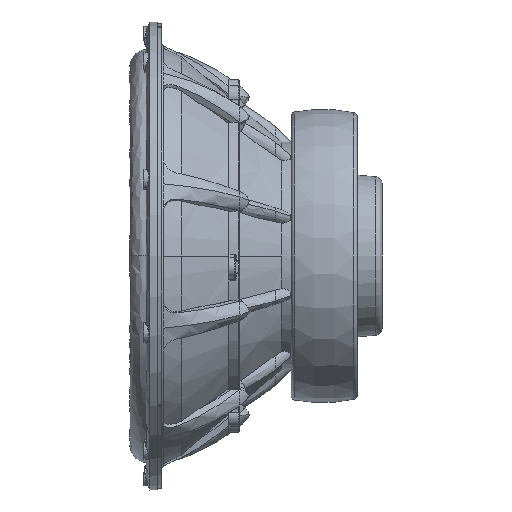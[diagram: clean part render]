
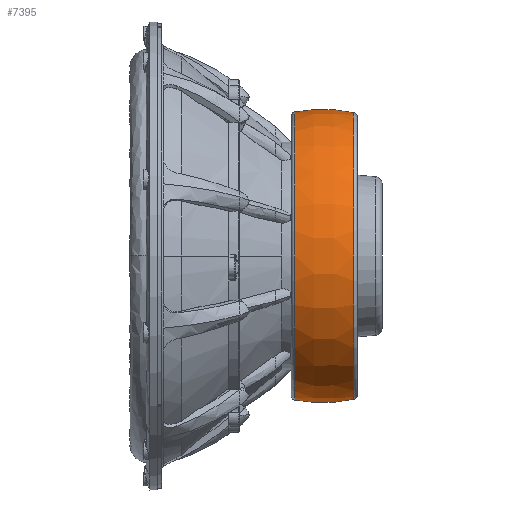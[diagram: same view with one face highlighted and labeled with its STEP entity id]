
A CAD part, left-side view. The second image highlights one B-rep face of the part: STEP entity #7395.
In plain terms, the highlighted toroidal (fillet/blend) face has major radius 0.248 mm and minor radius 100 mm.
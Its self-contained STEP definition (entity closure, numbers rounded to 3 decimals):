
#2444 = EDGE_CURVE ( 'NONE', #52921, #20210, #50799, .T. ) ;
#3229 = CARTESIAN_POINT ( 'NONE',  ( 0., -2.53, -98.425 ) ) ;
#7395 = ADVANCED_FACE ( 'NONE', ( #124953 ), #22555, .T. ) ;
#11148 = ORIENTED_EDGE ( 'NONE', *, *, #103281, .T. ) ;
#13295 = DIRECTION ( 'NONE',  ( 0., -1., 0. ) ) ;
#18969 = DIRECTION ( 'NONE',  ( 0., -1., 0. ) ) ;
#20210 = VERTEX_POINT ( 'NONE', #94953 ) ;
#22218 = EDGE_LOOP ( 'NONE', ( #11148, #78718, #50204, #69757 ) ) ;
#22241 = AXIS2_PLACEMENT_3D ( 'NONE', #75847, #85570, #114510 ) ;
#22555 = TOROIDAL_SURFACE ( 'NONE', #37220, 0.248, 100. ) ;
#28600 = VERTEX_POINT ( 'NONE', #3229 ) ;
#29918 = DIRECTION ( 'NONE',  ( 0., 0., 1. ) ) ;
#33990 = VERTEX_POINT ( 'NONE', #87728 ) ;
#37220 = AXIS2_PLACEMENT_3D ( 'NONE', #97215, #18969, #29918 ) ;
#40365 = DIRECTION ( 'NONE',  ( -1., 0., 0. ) ) ;
#41949 = DIRECTION ( 'NONE',  ( 0., -1., 0. ) ) ;
#50204 = ORIENTED_EDGE ( 'NONE', *, *, #2444, .F. ) ;
#50799 = CIRCLE ( 'NONE', #63254, 97.93 ) ;
#52826 = CIRCLE ( 'NONE', #77606, 98.425 ) ;
#52921 = VERTEX_POINT ( 'NONE', #86847 ) ;
#59413 = CIRCLE ( 'NONE', #22241, 100. ) ;
#60519 = DIRECTION ( 'NONE',  ( 0., 0., 1. ) ) ;
#62790 = CIRCLE ( 'NONE', #120424, 100. ) ;
#63254 = AXIS2_PLACEMENT_3D ( 'NONE', #112042, #13295, #80521 ) ;
#69757 = ORIENTED_EDGE ( 'NONE', *, *, #79575, .F. ) ;
#75847 = CARTESIAN_POINT ( 'NONE',  ( 0., -21.538, 0.248 ) ) ;
#77606 = AXIS2_PLACEMENT_3D ( 'NONE', #92427, #41949, #122714 ) ;
#78718 = ORIENTED_EDGE ( 'NONE', *, *, #87190, .T. ) ;
#79575 = EDGE_CURVE ( 'NONE', #33990, #52921, #59413, .T. ) ;
#80521 = DIRECTION ( 'NONE',  ( 0., 0., 1. ) ) ;
#85570 = DIRECTION ( 'NONE',  ( 1., 0., 0. ) ) ;
#86847 = CARTESIAN_POINT ( 'NONE',  ( 0., -42.942, 97.93 ) ) ;
#87190 = EDGE_CURVE ( 'NONE', #28600, #20210, #62790, .T. ) ;
#87728 = CARTESIAN_POINT ( 'NONE',  ( 0., -2.53, 98.425 ) ) ;
#89610 = CARTESIAN_POINT ( 'NONE',  ( 0., -21.538, -0.248 ) ) ;
#92427 = CARTESIAN_POINT ( 'NONE',  ( 0., -2.53, 0. ) ) ;
#94953 = CARTESIAN_POINT ( 'NONE',  ( 0., -42.942, -97.93 ) ) ;
#97215 = CARTESIAN_POINT ( 'NONE',  ( 0., -21.538, 0. ) ) ;
#103281 = EDGE_CURVE ( 'NONE', #33990, #28600, #52826, .T. ) ;
#112042 = CARTESIAN_POINT ( 'NONE',  ( 0., -42.942, 0. ) ) ;
#114510 = DIRECTION ( 'NONE',  ( 0., 0., -1. ) ) ;
#120424 = AXIS2_PLACEMENT_3D ( 'NONE', #89610, #40365, #60519 ) ;
#122714 = DIRECTION ( 'NONE',  ( 0., 0., 1. ) ) ;
#124953 = FACE_OUTER_BOUND ( 'NONE', #22218, .T. ) ;
